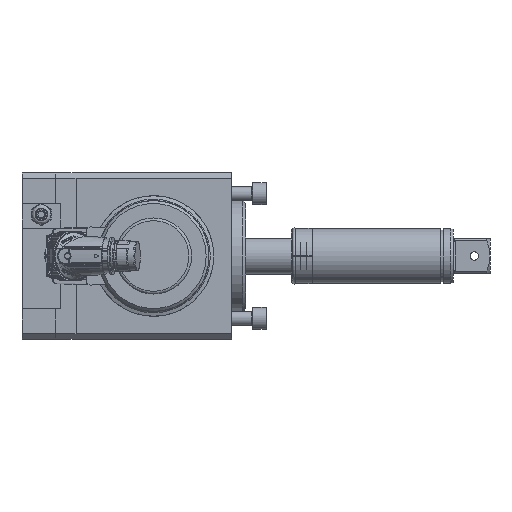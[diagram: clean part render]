
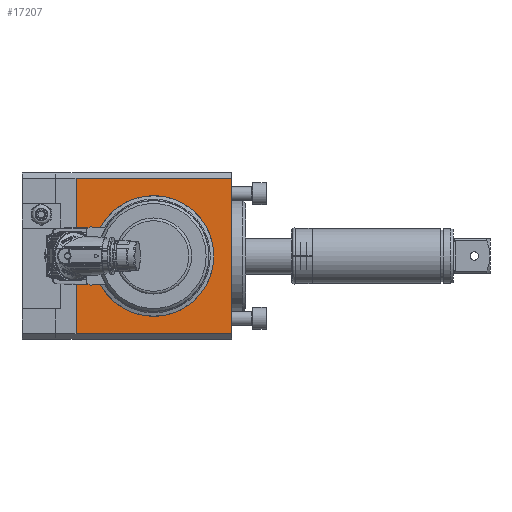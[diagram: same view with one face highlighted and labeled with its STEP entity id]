
A CAD part, left-side view. The second image highlights one B-rep face of the part: STEP entity #17207.
In plain terms, the highlighted planar face has unit normal (-1, 0, 0).
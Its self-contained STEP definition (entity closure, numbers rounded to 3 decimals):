
#2768 = VERTEX_POINT ( 'NONE', #21569 ) ;
#7208 = CARTESIAN_POINT ( 'NONE',  ( -102.5, 0.5, -56. ) ) ;
#8058 = DIRECTION ( 'NONE',  ( 0., -1., 0. ) ) ;
#9414 = DIRECTION ( 'NONE',  ( 0., 0., -1. ) ) ;
#10059 = ORIENTED_EDGE ( 'NONE', *, *, #19840, .F. ) ;
#13124 = LINE ( 'NONE', #7208, #44582 ) ;
#14127 = DIRECTION ( 'NONE',  ( 0., 0., 1. ) ) ;
#17135 = CARTESIAN_POINT ( 'NONE',  ( -102.5, 112.5, -56. ) ) ;
#17207 = ADVANCED_FACE ( 'NONE', ( #65266, #61926 ), #45267, .T. ) ;
#17531 = DIRECTION ( 'NONE',  ( 1., 0., 0. ) ) ;
#19840 = EDGE_CURVE ( 'NONE', #92787, #43094, #13124, .T. ) ;
#21569 = CARTESIAN_POINT ( 'NONE',  ( -102.5, 56.5, 43.5 ) ) ;
#27781 = AXIS2_PLACEMENT_3D ( 'NONE', #81761, #37335, #52595 ) ;
#31486 = AXIS2_PLACEMENT_3D ( 'NONE', #60852, #17531, #68229 ) ;
#37335 = DIRECTION ( 'NONE',  ( -1., 0., 0. ) ) ;
#43094 = VERTEX_POINT ( 'NONE', #17135 ) ;
#44582 = VECTOR ( 'NONE', #57558, 1000. ) ;
#45172 = CARTESIAN_POINT ( 'NONE',  ( -102.5, 0.5, 56. ) ) ;
#45267 = PLANE ( 'NONE',  #27781 ) ;
#45383 = LINE ( 'NONE', #45172, #45752 ) ;
#45752 = VECTOR ( 'NONE', #9414, 1000. ) ;
#46216 = ORIENTED_EDGE ( 'NONE', *, *, #52676, .T. ) ;
#51034 = CARTESIAN_POINT ( 'NONE',  ( -102.5, 0.5, 56. ) ) ;
#52595 = DIRECTION ( 'NONE',  ( 0., 0., 1. ) ) ;
#52600 = CIRCLE ( 'NONE', #31486, 43.5 ) ;
#52676 = EDGE_CURVE ( 'NONE', #2768, #2768, #52600, .T. ) ;
#53108 = EDGE_LOOP ( 'NONE', ( #46216 ) ) ;
#56967 = CARTESIAN_POINT ( 'NONE',  ( -102.5, 0.5, -56. ) ) ;
#57415 = CARTESIAN_POINT ( 'NONE',  ( -102.5, 112.5, 56. ) ) ;
#57558 = DIRECTION ( 'NONE',  ( 0., 1., 0. ) ) ;
#57612 = EDGE_CURVE ( 'NONE', #61397, #70973, #61421, .T. ) ;
#57863 = ORIENTED_EDGE ( 'NONE', *, *, #57612, .F. ) ;
#58749 = EDGE_CURVE ( 'NONE', #70973, #92787, #45383, .T. ) ;
#59829 = ORIENTED_EDGE ( 'NONE', *, *, #67432, .F. ) ;
#60852 = CARTESIAN_POINT ( 'NONE',  ( -102.5, 56.5, 0. ) ) ;
#61397 = VERTEX_POINT ( 'NONE', #62325 ) ;
#61399 = VECTOR ( 'NONE', #8058, 1000. ) ;
#61421 = LINE ( 'NONE', #51034, #61399 ) ;
#61926 = FACE_BOUND ( 'NONE', #53108, .T. ) ;
#62325 = CARTESIAN_POINT ( 'NONE',  ( -102.5, 112.5, 56. ) ) ;
#65266 = FACE_OUTER_BOUND ( 'NONE', #66291, .T. ) ;
#66291 = EDGE_LOOP ( 'NONE', ( #67597, #57863, #59829, #10059 ) ) ;
#67432 = EDGE_CURVE ( 'NONE', #43094, #61397, #84924, .T. ) ;
#67597 = ORIENTED_EDGE ( 'NONE', *, *, #58749, .F. ) ;
#68229 = DIRECTION ( 'NONE',  ( 0., 0., 1. ) ) ;
#70973 = VERTEX_POINT ( 'NONE', #88272 ) ;
#81761 = CARTESIAN_POINT ( 'NONE',  ( -102.5, 56.5, 0. ) ) ;
#83695 = VECTOR ( 'NONE', #14127, 1000. ) ;
#84924 = LINE ( 'NONE', #57415, #83695 ) ;
#88272 = CARTESIAN_POINT ( 'NONE',  ( -102.5, 0.5, 56. ) ) ;
#92787 = VERTEX_POINT ( 'NONE', #56967 ) ;
